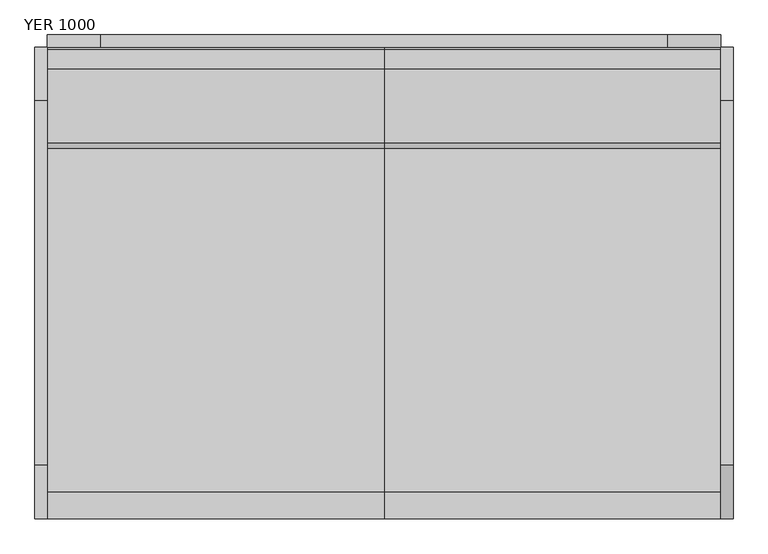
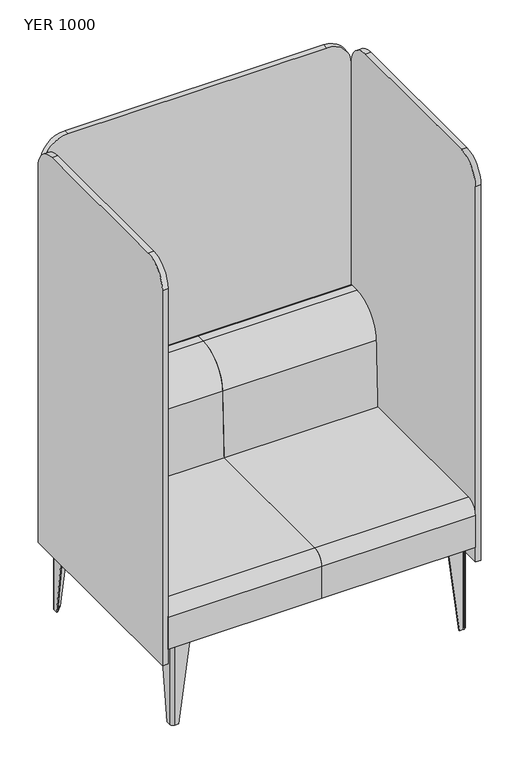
"""IFC4 building model written with IfcOpenShell, lengths in millimetres: furniture geometry, Mobiliário_Mobiliário de Escritório_LinhaYoung_Enclosure (Aço) - YER_Marelli : YER 1000."""

from ifc_helpers import new_model, si_unit, point, frame, frame_2d, origin, origin_with_axes, place, context, project, spatial, polyline, circle_curve, trimmed, segment, composite_curve, outline, extrude, source, transform, mapped, element, save
from ifc_brep_helpers import plane_surface, cylinder_surface, revolved_surface, advanced_brep


def yer_1000_36a1c1a7(model_context):
    return source(origin(), model_context, "Body", "SolidModel", [
        advanced_brep(
        [(20.0, 75.0, 280.0), (20.0, 25.0, 280.0), (30.0, 15.0, 280.0), (80.0, 15.0, 280.0), (80.0, 18.0, 280.0), (30.0, 18.0, 280.0), (23.0, 25.0, 280.0), (23.0, 75.0, 280.0), (20.0, 39.0, 0.0), (23.0, 39.0, 0.0), (23.0, 25.0, 0.0), (30.0, 18.0, 0.0), (44.0, 18.0, 0.0), (44.0, 15.0, 0.0), (30.0, 15.0, 0.0), (20.0, 25.0, 0.0)],
        [
            (0, 1),
            (1, 2, circle_curve(frame((30.0, 25.0, 280.0), z_axis=(0.0, 0.0, 1.0), x_axis=(0.0, -1.0, 0.0)), 10.0)),
            (2, 3),
            (3, 4),
            (4, 5),
            (5, 6, circle_curve(frame((30.0, 25.0, 280.0), z_axis=(0.0, 0.0, -1.0), x_axis=(-1.0, 0.0, 0.0)), 7.0)),
            (6, 7),
            (7, 0),
            (8, 9),
            (9, 10),
            (10, 11, circle_curve(frame((30.0, 25.0, 0.0), z_axis=(0.0, 0.0, 1.0), x_axis=(-1.0, 0.0, 0.0)), 7.0)),
            (11, 12),
            (12, 13),
            (13, 14),
            (14, 15, circle_curve(frame((30.0, 25.0, 0.0), z_axis=(0.0, 0.0, -1.0), x_axis=(0.0, -1.0, 0.0)), 10.0)),
            (15, 8),
            (15, 1),
            (0, 8),
            (14, 2),
            (13, 3),
            (12, 4),
            (11, 5),
            (10, 6),
            (9, 7),
        ],
        [
            plane_surface(frame((38.25, 33.25, 280.0), z_axis=(0.0, 0.0, 1.0), x_axis=(0.0, -1.0, 0.0))),
            plane_surface(frame((29.25, 24.25, 0.0), z_axis=(0.0, 0.0, -1.0), x_axis=(0.0, -1.0, 0.0))),
            plane_surface(frame((20.0, 32.0, 0.0), z_axis=(-1.0, 0.0, 0.0), x_axis=(0.0, -1.0, 0.0))),
            cylinder_surface(frame((30.0, 25.0, 0.0), z_axis=(0.0, 0.0, 1.0), x_axis=(0.0, -1.0, 0.0)), 10.0),
            plane_surface(frame((37.0, 15.0, 0.0), z_axis=(0.0, -1.0, 0.0), x_axis=(1.0, 0.0, 0.0))),
            plane_surface(frame((44.0, 16.5, 0.0), z_axis=(0.9918357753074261, 0.0, -0.12752174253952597), x_axis=(0.0, 1.0, 0.0))),
            plane_surface(frame((37.0, 18.0, 0.0), z_axis=(0.0, 1.0, 0.0), x_axis=(-1.0, 0.0, 0.0))),
            revolved_surface(polyline([(23.0, 25.0, 280.0), (23.0, 25.0, 0.0)]), (30.0, 25.0, 0.0), (0.0, 0.0, 1.0)),
            plane_surface(frame((23.0, 32.0, 0.0), z_axis=(1.0, 0.0, 0.0), x_axis=(0.0, 1.0, 0.0))),
            plane_surface(frame((21.5, 39.0, 0.0), z_axis=(0.0, 0.9918357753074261, -0.12752174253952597), x_axis=(-1.0, 0.0, 0.0))),
        ],
        [
            (0, [[1, 2, 3, 4, 5, 6, 7, 8]]),
            (1, [[9, 10, 11, 12, 13, 14, 15, 16]]),
            (2, [[-16, 17, -1, 18]]),
            (3, [[-15, 19, -2, -17]]),
            (4, [[-14, 20, -3, -19]]),
            (5, [[-13, 21, -4, -20]]),
            (6, [[-12, 22, -5, -21]]),
            (7, [[-11, 23, -6, -22]]),
            (8, [[-10, 24, -7, -23]]),
            (9, [[-9, -18, -8, -24]]),
        ],
    ),
        advanced_brep(
        [(980.0, 75.0, 280.0), (977.0, 75.0, 280.0), (977.0, 25.0, 280.0), (970.0, 18.0, 280.0), (920.0, 18.0, 280.0), (920.0, 15.0, 280.0), (970.0, 15.0, 280.0), (980.0, 25.0, 280.0), (980.0, 39.0, 0.0), (980.0, 25.0, 0.0), (970.0, 15.0, 0.0), (956.0, 15.0, 0.0), (956.0, 18.0, 0.0), (970.0, 18.0, 0.0), (977.0, 25.0, 0.0), (977.0, 39.0, 0.0)],
        [
            (0, 1),
            (1, 2),
            (2, 3, circle_curve(frame((970.0, 25.0, 280.0), z_axis=(0.0, 0.0, -1.0), x_axis=(0.0, -1.0, 0.0)), 7.0)),
            (3, 4),
            (4, 5),
            (5, 6),
            (6, 7, circle_curve(frame((970.0, 25.0, 280.0), z_axis=(0.0, 0.0, 1.0), x_axis=(1.0, 0.0, 0.0)), 10.0)),
            (7, 0),
            (8, 9),
            (9, 10, circle_curve(frame((970.0, 25.0, 0.0), z_axis=(0.0, 0.0, -1.0), x_axis=(1.0, 0.0, 0.0)), 10.0)),
            (10, 11),
            (11, 12),
            (12, 13),
            (13, 14, circle_curve(frame((970.0, 25.0, 0.0), z_axis=(0.0, 0.0, 1.0), x_axis=(0.0, -1.0, 0.0)), 7.0)),
            (14, 15),
            (15, 8),
            (8, 0),
            (7, 9),
            (6, 10),
            (5, 11),
            (4, 12),
            (3, 13),
            (2, 14),
            (1, 15),
        ],
        [
            plane_surface(frame((961.75, 33.25, 280.0), z_axis=(0.0, 0.0, 1.0), x_axis=(-1.0, 0.0, 0.0))),
            plane_surface(frame((970.75, 24.25, 0.0), z_axis=(0.0, 0.0, -1.0), x_axis=(-1.0, 0.0, 0.0))),
            plane_surface(frame((980.0, 32.0, 0.0), z_axis=(1.0, 0.0, 0.0), x_axis=(0.0, 1.0, 0.0))),
            cylinder_surface(frame((970.0, 25.0, 0.0), z_axis=(0.0, 0.0, 1.0), x_axis=(1.0, 0.0, 0.0)), 10.0),
            plane_surface(frame((963.0, 15.0, 0.0), z_axis=(0.0, -1.0, 0.0), x_axis=(1.0, 0.0, 0.0))),
            plane_surface(frame((956.0, 16.5, 0.0), z_axis=(-0.9918357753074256, 0.0, -0.12752174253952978), x_axis=(0.0, -1.0, 0.0))),
            plane_surface(frame((963.0, 18.0, 0.0), z_axis=(0.0, 1.0, 0.0), x_axis=(-1.0, 0.0, 0.0))),
            revolved_surface(polyline([(970.0, 18.0, 280.0), (970.0, 18.0, 0.0)]), (970.0, 25.0, 0.0), (0.0, 0.0, 1.0)),
            plane_surface(frame((977.0, 32.0, 0.0), z_axis=(-1.0, 0.0, 0.0), x_axis=(0.0, -1.0, 0.0))),
            plane_surface(frame((978.5, 39.0, 0.0), z_axis=(0.0, 0.9918357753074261, -0.127521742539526), x_axis=(-1.0, 0.0, 0.0))),
        ],
        [
            (0, [[1, 2, 3, 4, 5, 6, 7, 8]]),
            (1, [[9, 10, 11, 12, 13, 14, 15, 16]]),
            (2, [[-9, 17, -8, 18]]),
            (3, [[-10, -18, -7, 19]]),
            (4, [[-11, -19, -6, 20]]),
            (5, [[-12, -20, -5, 21]]),
            (6, [[-13, -21, -4, 22]]),
            (7, [[-14, -22, -3, 23]]),
            (8, [[-15, -23, -2, 24]]),
            (9, [[-16, -24, -1, -17]]),
        ],
    ),
        advanced_brep(
        [(20.0, 625.0, 280.0), (23.0, 625.0, 280.0), (23.0, 675.0, 280.0), (30.0, 682.0, 280.0), (80.0, 682.0, 280.0), (80.0, 685.0, 280.0), (30.0, 685.0, 280.0), (20.0, 675.0, 280.0), (20.0, 661.0, 0.0), (20.0, 675.0, 0.0), (30.0, 685.0, 0.0), (44.0, 685.0, 0.0), (44.0, 682.0, 0.0), (30.0, 682.0, 0.0), (23.0, 675.0, 0.0), (23.0, 661.0, 0.0)],
        [
            (0, 1),
            (1, 2),
            (2, 3, circle_curve(frame((30.0, 675.0, 280.0), z_axis=(0.0, 0.0, -1.0), x_axis=(0.0, 1.0, 0.0)), 7.0)),
            (3, 4),
            (4, 5),
            (5, 6),
            (6, 7, circle_curve(frame((30.0, 675.0, 280.0), z_axis=(0.0, 0.0, 1.0), x_axis=(-1.0, 0.0, 0.0)), 10.0)),
            (7, 0),
            (8, 9),
            (9, 10, circle_curve(frame((30.0, 675.0, 0.0), z_axis=(0.0, 0.0, -1.0), x_axis=(-1.0, 0.0, 0.0)), 10.0)),
            (10, 11),
            (11, 12),
            (12, 13),
            (13, 14, circle_curve(frame((30.0, 675.0, 0.0), z_axis=(0.0, 0.0, 1.0), x_axis=(0.0, 1.0, 0.0)), 7.0)),
            (14, 15),
            (15, 8),
            (8, 0),
            (7, 9),
            (6, 10),
            (5, 11),
            (4, 12),
            (3, 13),
            (2, 14),
            (1, 15),
        ],
        [
            plane_surface(frame((38.25, 666.75, 280.0), z_axis=(0.0, 0.0, 1.0), x_axis=(1.0, 0.0, 0.0))),
            plane_surface(frame((29.25, 675.75, 0.0), z_axis=(0.0, 0.0, -1.0), x_axis=(1.0, 0.0, 0.0))),
            plane_surface(frame((20.0, 668.0, 0.0), z_axis=(-1.0, 0.0, 0.0), x_axis=(0.0, -1.0, 0.0))),
            cylinder_surface(frame((30.0, 675.0, 0.0), z_axis=(0.0, 0.0, 1.0), x_axis=(-1.0, 0.0, 0.0)), 10.0),
            plane_surface(frame((37.0, 685.0, 0.0), z_axis=(0.0, 1.0, 0.0), x_axis=(-1.0, 0.0, 0.0))),
            plane_surface(frame((44.0, 683.5, 0.0), z_axis=(0.9918357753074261, 0.0, -0.12752174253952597), x_axis=(0.0, 1.0, 0.0))),
            plane_surface(frame((37.0, 682.0, 0.0), z_axis=(0.0, -1.0, 0.0), x_axis=(1.0, 0.0, 0.0))),
            revolved_surface(polyline([(30.0, 682.0, 280.0), (30.0, 682.0, 0.0)]), (30.0, 675.0, 0.0), (0.0, 0.0, 1.0)),
            plane_surface(frame((23.0, 668.0, 0.0), z_axis=(1.0, 0.0, 0.0), x_axis=(0.0, 1.0, 0.0))),
            plane_surface(frame((21.5, 661.0, 0.0), z_axis=(0.0, -0.9918357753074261, -0.127521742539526), x_axis=(1.0, 0.0, 0.0))),
        ],
        [
            (0, [[1, 2, 3, 4, 5, 6, 7, 8]]),
            (1, [[9, 10, 11, 12, 13, 14, 15, 16]]),
            (2, [[-9, 17, -8, 18]]),
            (3, [[-10, -18, -7, 19]]),
            (4, [[-11, -19, -6, 20]]),
            (5, [[-12, -20, -5, 21]]),
            (6, [[-13, -21, -4, 22]]),
            (7, [[-14, -22, -3, 23]]),
            (8, [[-15, -23, -2, 24]]),
            (9, [[-16, -24, -1, -17]]),
        ],
    ),
        advanced_brep(
        [(980.0, 625.0, 280.0), (980.0, 675.0, 280.0), (970.0, 685.0, 280.0), (920.0, 685.0, 280.0), (920.0, 682.0, 280.0), (970.0, 682.0, 280.0), (977.0, 675.0, 280.0), (977.0, 625.0, 280.0), (980.0, 661.0, 0.0), (977.0, 661.0, 0.0), (977.0, 675.0, 0.0), (970.0, 682.0, 0.0), (956.0, 682.0, 0.0), (956.0, 685.0, 0.0), (970.0, 685.0, 0.0), (980.0, 675.0, 0.0)],
        [
            (0, 1),
            (1, 2, circle_curve(frame((970.0, 675.0, 280.0), z_axis=(0.0, 0.0, 1.0), x_axis=(0.0, 1.0, 0.0)), 10.0)),
            (2, 3),
            (3, 4),
            (4, 5),
            (5, 6, circle_curve(frame((970.0, 675.0, 280.0), z_axis=(0.0, 0.0, -1.0), x_axis=(1.0, 0.0, 0.0)), 7.0)),
            (6, 7),
            (7, 0),
            (8, 9),
            (9, 10),
            (10, 11, circle_curve(frame((970.0, 675.0, 0.0), z_axis=(0.0, 0.0, 1.0), x_axis=(1.0, 0.0, 0.0)), 7.0)),
            (11, 12),
            (12, 13),
            (13, 14),
            (14, 15, circle_curve(frame((970.0, 675.0, 0.0), z_axis=(0.0, 0.0, -1.0), x_axis=(0.0, 1.0, 0.0)), 10.0)),
            (15, 8),
            (15, 1),
            (0, 8),
            (14, 2),
            (13, 3),
            (12, 4),
            (11, 5),
            (10, 6),
            (9, 7),
        ],
        [
            plane_surface(frame((961.75, 666.75, 280.0), z_axis=(0.0, 0.0, 1.0), x_axis=(0.0, 1.0, 0.0))),
            plane_surface(frame((970.75, 675.75, 0.0), z_axis=(0.0, 0.0, -1.0), x_axis=(0.0, 1.0, 0.0))),
            plane_surface(frame((980.0, 668.0, 0.0), z_axis=(1.0, 0.0, 0.0), x_axis=(0.0, 1.0, 0.0))),
            cylinder_surface(frame((970.0, 675.0, 0.0), z_axis=(0.0, 0.0, 1.0), x_axis=(0.0, 1.0, 0.0)), 10.0),
            plane_surface(frame((963.0, 685.0, 0.0), z_axis=(0.0, 1.0, 0.0), x_axis=(-1.0, 0.0, 0.0))),
            plane_surface(frame((956.0, 683.5, 0.0), z_axis=(-0.9918357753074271, 0.0, -0.12752174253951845), x_axis=(0.0, -1.0, 0.0))),
            plane_surface(frame((963.0, 682.0, 0.0), z_axis=(0.0, -1.0, 0.0), x_axis=(1.0, 0.0, 0.0))),
            revolved_surface(polyline([(977.0, 675.0, 280.0), (977.0, 675.0, 0.0)]), (970.0, 675.0, 0.0), (0.0, 0.0, 1.0)),
            plane_surface(frame((977.0, 668.0, 0.0), z_axis=(-1.0, 0.0, 0.0), x_axis=(0.0, -1.0, 0.0))),
            plane_surface(frame((978.5, 661.0, 0.0), z_axis=(0.0, -0.9918357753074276, -0.12752174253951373), x_axis=(1.0, 0.0, 0.0))),
        ],
        [
            (0, [[1, 2, 3, 4, 5, 6, 7, 8]]),
            (1, [[9, 10, 11, 12, 13, 14, 15, 16]]),
            (2, [[-16, 17, -1, 18]]),
            (3, [[-15, 19, -2, -17]]),
            (4, [[-14, 20, -3, -19]]),
            (5, [[-13, 21, -4, -20]]),
            (6, [[-12, 22, -5, -21]]),
            (7, [[-11, 23, -6, -22]]),
            (8, [[-10, 24, -7, -23]]),
            (9, [[-9, -18, -8, -24]]),
        ],
    ),
        extrude(outline(composite_curve([segment(polyline([(23.0, 39.0), (44.0, 18.0), (30.0, 18.0)]), True, "CONTINUOUS"), segment(trimmed(circle_curve(frame_2d((30.0, 25.0)), 7.0), [point((30.0, 18.0))], [point((23.0, 25.0))], False, "CARTESIAN"), True, "CONTINUOUS"), segment(polyline([(23.0, 25.0), (23.0, 39.0)]), True, "CONTINUOUS")], self_intersect=False)), origin_with_axes(), (0.0, 0.0, 1.0), 1.0),
        extrude(outline(composite_curve([segment(polyline([(23.0, 661.0), (23.0, 675.0)]), True, "CONTINUOUS"), segment(trimmed(circle_curve(frame_2d((30.0, 675.0)), 7.0), [point((23.0, 675.0))], [point((30.0, 682.0))], False, "CARTESIAN"), True, "CONTINUOUS"), segment(polyline([(30.0, 682.0), (44.0, 682.0), (23.0, 661.0)]), True, "CONTINUOUS")], self_intersect=False)), origin_with_axes(), (0.0, 0.0, 1.0), 1.0),
        extrude(outline(composite_curve([segment(polyline([(977.0, 39.0), (977.0, 25.0)]), True, "CONTINUOUS"), segment(trimmed(circle_curve(frame_2d((970.0, 25.0)), 7.0), [point((977.0, 25.0))], [point((970.0, 18.0))], False, "CARTESIAN"), True, "CONTINUOUS"), segment(polyline([(970.0, 18.0), (956.0, 18.0), (977.0, 39.0)]), True, "CONTINUOUS")], self_intersect=False)), origin_with_axes(), (0.0, 0.0, 1.0), 1.0),
        extrude(outline(composite_curve([segment(polyline([(977.0, 661.0), (956.0, 682.0), (970.0, 682.0)]), True, "CONTINUOUS"), segment(trimmed(circle_curve(frame_2d((970.0, 675.0)), 7.0), [point((970.0, 682.0))], [point((977.0, 675.0))], False, "CARTESIAN"), True, "CONTINUOUS"), segment(polyline([(977.0, 675.0), (977.0, 661.0)]), True, "CONTINUOUS")], self_intersect=False)), origin_with_axes(), (0.0, 0.0, 1.0), 1.0),
        extrude(outline(composite_curve([segment(trimmed(circle_curve(frame_2d((30.0, 25.0)), 7.0), [point((30.0, 18.0))], [point((23.0, 25.0))], False, "CARTESIAN"), True, "CONTINUOUS"), segment(polyline([(23.0, 25.0), (23.0, 93.0)]), True, "CONTINUOUS"), segment(trimmed(circle_curve(frame_2d((28.0, 93.0)), 5.0), [point((23.0, 93.0))], [point((28.0, 98.0))], False, "CARTESIAN"), True, "CONTINUOUS"), segment(polyline([(28.0, 98.0), (51.9545624, 98.0)]), True, "CONTINUOUS"), segment(trimmed(circle_curve(frame_2d((52.6241051, 89.931755)), 8.0959783), [point((51.9545624, 98.0))], [point((58.520382, 95.479618))], False, "CARTESIAN"), True, "CONTINUOUS"), segment(polyline([(58.520382, 95.479618), (100.479618, 53.520382)]), True, "CONTINUOUS"), segment(trimmed(circle_curve(frame_2d((94.931755, 47.6241051)), 8.0959783), [point((100.479618, 53.520382))], [point((103.0, 46.9545624))], False, "CARTESIAN"), True, "CONTINUOUS"), segment(polyline([(103.0, 46.9545624), (103.0, 23.0)]), True, "CONTINUOUS"), segment(trimmed(circle_curve(frame_2d((98.0, 23.0)), 5.0), [point((103.0, 23.0))], [point((98.0, 18.0))], False, "CARTESIAN"), True, "CONTINUOUS"), segment(polyline([(98.0, 18.0), (30.0, 18.0)]), True, "CONTINUOUS")], self_intersect=False)), frame((0.0, 0.0, 279.0), z_axis=(0.0, 0.0, 1.0), x_axis=(1.0, 0.0, 0.0)), (0.0, 0.0, 1.0), 1.0),
        extrude(outline(composite_curve([segment(polyline([(30.0, 682.0), (98.0, 682.0)]), True, "CONTINUOUS"), segment(trimmed(circle_curve(frame_2d((98.0, 677.0)), 5.0), [point((98.0, 682.0))], [point((103.0, 677.0))], False, "CARTESIAN"), True, "CONTINUOUS"), segment(polyline([(103.0, 677.0), (103.0, 653.0454376)]), True, "CONTINUOUS"), segment(trimmed(circle_curve(frame_2d((94.931755, 652.3758949)), 8.0959783), [point((103.0, 653.0454376))], [point((100.479618, 646.479618))], False, "CARTESIAN"), True, "CONTINUOUS"), segment(polyline([(100.479618, 646.479618), (58.520382, 604.520382)]), True, "CONTINUOUS"), segment(trimmed(circle_curve(frame_2d((52.6241051, 610.068245)), 8.0959783), [point((58.520382, 604.520382))], [point((51.9545624, 602.0))], False, "CARTESIAN"), True, "CONTINUOUS"), segment(polyline([(51.9545624, 602.0), (28.0, 602.0)]), True, "CONTINUOUS"), segment(trimmed(circle_curve(frame_2d((28.0, 607.0)), 5.0), [point((28.0, 602.0))], [point((23.0, 607.0))], False, "CARTESIAN"), True, "CONTINUOUS"), segment(polyline([(23.0, 607.0), (23.0, 675.0)]), True, "CONTINUOUS"), segment(trimmed(circle_curve(frame_2d((30.0, 675.0)), 7.0), [point((23.0, 675.0))], [point((30.0, 682.0))], False, "CARTESIAN"), True, "CONTINUOUS")], self_intersect=False)), frame((0.0, 0.0, 279.0), z_axis=(0.0, 0.0, 1.0), x_axis=(1.0, 0.0, 0.0)), (0.0, 0.0, 1.0), 1.0),
        extrude(outline(composite_curve([segment(polyline([(970.0, 18.0), (902.0, 18.0)]), True, "CONTINUOUS"), segment(trimmed(circle_curve(frame_2d((902.0, 23.0)), 5.0), [point((902.0, 18.0))], [point((897.0, 23.0))], False, "CARTESIAN"), True, "CONTINUOUS"), segment(polyline([(897.0, 23.0), (897.0, 46.9545624)]), True, "CONTINUOUS"), segment(trimmed(circle_curve(frame_2d((905.068245, 47.6241051)), 8.0959783), [point((897.0, 46.9545624))], [point((899.520382, 53.520382))], False, "CARTESIAN"), True, "CONTINUOUS"), segment(polyline([(899.520382, 53.520382), (941.479618, 95.479618)]), True, "CONTINUOUS"), segment(trimmed(circle_curve(frame_2d((947.3758949, 89.931755)), 8.0959783), [point((941.479618, 95.479618))], [point((948.0454376, 98.0))], False, "CARTESIAN"), True, "CONTINUOUS"), segment(polyline([(948.0454376, 98.0), (972.0, 98.0)]), True, "CONTINUOUS"), segment(trimmed(circle_curve(frame_2d((972.0, 93.0)), 5.0), [point((972.0, 98.0))], [point((977.0, 93.0))], False, "CARTESIAN"), True, "CONTINUOUS"), segment(polyline([(977.0, 93.0), (977.0, 25.0)]), True, "CONTINUOUS"), segment(trimmed(circle_curve(frame_2d((970.0, 25.0)), 7.0), [point((977.0, 25.0))], [point((970.0, 18.0))], False, "CARTESIAN"), True, "CONTINUOUS")], self_intersect=False)), frame((0.0, 0.0, 279.0), z_axis=(0.0, 0.0, 1.0), x_axis=(1.0, 0.0, 0.0)), (0.0, 0.0, 1.0), 1.0),
        extrude(outline(composite_curve([segment(trimmed(circle_curve(frame_2d((970.0, 675.0)), 7.0), [point((970.0, 682.0))], [point((977.0, 675.0))], False, "CARTESIAN"), True, "CONTINUOUS"), segment(polyline([(977.0, 675.0), (977.0, 607.0)]), True, "CONTINUOUS"), segment(trimmed(circle_curve(frame_2d((972.0, 607.0)), 5.0), [point((977.0, 607.0))], [point((972.0, 602.0))], False, "CARTESIAN"), True, "CONTINUOUS"), segment(polyline([(972.0, 602.0), (948.0454376, 602.0)]), True, "CONTINUOUS"), segment(trimmed(circle_curve(frame_2d((947.3758949, 610.068245)), 8.0959783), [point((948.0454376, 602.0))], [point((941.479618, 604.520382))], False, "CARTESIAN"), True, "CONTINUOUS"), segment(polyline([(941.479618, 604.520382), (899.520382, 646.479618)]), True, "CONTINUOUS"), segment(trimmed(circle_curve(frame_2d((905.068245, 652.3758949)), 8.0959783), [point((899.520382, 646.479618))], [point((897.0, 653.0454376))], False, "CARTESIAN"), True, "CONTINUOUS"), segment(polyline([(897.0, 653.0454376), (897.0, 677.0)]), True, "CONTINUOUS"), segment(trimmed(circle_curve(frame_2d((902.0, 677.0)), 5.0), [point((897.0, 677.0))], [point((902.0, 682.0))], False, "CARTESIAN"), True, "CONTINUOUS"), segment(polyline([(902.0, 682.0), (970.0, 682.0)]), True, "CONTINUOUS")], self_intersect=False)), frame((0.0, 0.0, 279.0), z_axis=(0.0, 0.0, 1.0), x_axis=(1.0, 0.0, 0.0)), (0.0, 0.0, 1.0), 1.0),
        extrude(outline(composite_curve([segment(polyline([(550.0, 430.0), (550.0, 280.0), (0.0, 280.0), (0.0, 390.0)]), True, "CONTINUOUS"), segment(trimmed(circle_curve(frame_2d((40.0, 390.0)), 40.0), [point((0.0, 390.0))], [point((40.0, 430.0))], False, "CARTESIAN"), True, "CONTINUOUS"), segment(polyline([(40.0, 430.0), (550.0, 430.0)]), True, "CONTINUOUS")], self_intersect=False)), frame((0.0, 0.0, 0.0), z_axis=(1.0, 0.0, 0.0), x_axis=(0.0, 1.0, 0.0)), (0.0, 0.0, 1.0), 500.0),
        extrude(outline(composite_curve([segment(polyline([(550.0, 430.0), (550.0, 280.0), (0.0, 280.0), (0.0, 390.0)]), True, "CONTINUOUS"), segment(trimmed(circle_curve(frame_2d((40.0, 390.0)), 40.0), [point((0.0, 390.0))], [point((40.0, 430.0))], False, "CARTESIAN"), True, "CONTINUOUS"), segment(polyline([(40.0, 430.0), (550.0, 430.0)]), True, "CONTINUOUS")], self_intersect=False)), frame((500.0, 0.0, 0.0), z_axis=(1.0, 0.0, 0.0), x_axis=(0.0, 1.0, 0.0)), (0.0, 0.0, 1.0), 500.0),
        extrude(outline(composite_curve([segment(polyline([(700.0, 756.802426), (700.0, 280.0), (550.0, 280.0), (550.0, 430.0), (558.2568376, 654.223651)]), True, "CONTINUOUS"), segment(trimmed(circle_curve(frame_2d((668.0, 650.1824561)), 109.8175439), [point((558.2568376, 654.223651))], [point((668.0, 760.0))], False, "CARTESIAN"), True, "CONTINUOUS"), segment(polyline([(668.0, 760.0), (696.802426, 760.0)]), True, "CONTINUOUS"), segment(trimmed(circle_curve(frame_2d((696.802426, 756.802426)), 3.197574), [point((696.802426, 760.0))], [point((700.0, 756.802426))], False, "CARTESIAN"), True, "CONTINUOUS")], self_intersect=False)), frame((0.0, 0.0, 0.0), z_axis=(1.0, 0.0, 0.0), x_axis=(0.0, 1.0, 0.0)), (0.0, 0.0, 1.0), 500.0),
        extrude(outline(composite_curve([segment(polyline([(700.0, 756.802426), (700.0, 280.0), (550.0, 280.0), (550.0, 430.0), (558.2568376, 654.223651)]), True, "CONTINUOUS"), segment(trimmed(circle_curve(frame_2d((668.0, 650.1824561)), 109.8175439), [point((558.2568376, 654.223651))], [point((668.0, 760.0))], False, "CARTESIAN"), True, "CONTINUOUS"), segment(polyline([(668.0, 760.0), (696.802426, 760.0)]), True, "CONTINUOUS"), segment(trimmed(circle_curve(frame_2d((696.802426, 756.802426)), 3.197574), [point((696.802426, 760.0))], [point((700.0, 756.802426))], False, "CARTESIAN"), True, "CONTINUOUS")], self_intersect=False)), frame((500.0, 0.0, 0.0), z_axis=(1.0, 0.0, 0.0), x_axis=(0.0, 1.0, 0.0)), (0.0, 0.0, 1.0), 500.0),
        extrude(outline(composite_curve([segment(trimmed(circle_curve(frame_2d((620.0, 1520.0)), 80.0), [point((620.0, 1600.0))], [point((700.0, 1520.0))], False, "CARTESIAN"), True, "CONTINUOUS"), segment(polyline([(700.0, 1520.0), (700.0, 230.0), (0.0, 230.0), (0.0, 1520.0)]), True, "CONTINUOUS"), segment(trimmed(circle_curve(frame_2d((80.0, 1520.0)), 80.0), [point((0.0, 1520.0))], [point((80.0, 1600.0))], False, "CARTESIAN"), True, "CONTINUOUS"), segment(polyline([(80.0, 1600.0), (620.0, 1600.0)]), True, "CONTINUOUS")], self_intersect=False)), frame((1000.0, 0.0, 0.0), z_axis=(1.0, 0.0, 0.0), x_axis=(0.0, 1.0, 0.0)), (0.0, 0.0, 1.0), 18.0),
        extrude(outline(composite_curve([segment(polyline([(1600.0, 920.0), (1600.0, 80.0)]), True, "CONTINUOUS"), segment(trimmed(circle_curve(frame_2d((1520.0, 80.0)), 80.0), [point((1600.0, 80.0))], [point((1520.0, 0.0))], False, "CARTESIAN"), True, "CONTINUOUS"), segment(polyline([(1520.0, 0.0), (230.0, 0.0), (230.0, 1000.0), (1520.0, 1000.0)]), True, "CONTINUOUS"), segment(trimmed(circle_curve(frame_2d((1520.0, 920.0)), 80.0), [point((1520.0, 1000.0))], [point((1600.0, 920.0))], False, "CARTESIAN"), True, "CONTINUOUS")], self_intersect=False)), frame((0.0, 700.0, 0.0), z_axis=(0.0, 1.0, 0.0), x_axis=(0.0, 0.0, 1.0)), (0.0, 0.0, 1.0), 18.0),
        extrude(outline(composite_curve([segment(trimmed(circle_curve(frame_2d((620.0, 1520.0)), 80.0), [point((620.0, 1600.0))], [point((700.0, 1520.0))], False, "CARTESIAN"), True, "CONTINUOUS"), segment(polyline([(700.0, 1520.0), (700.0, 230.0), (0.0, 230.0), (0.0, 1520.0)]), True, "CONTINUOUS"), segment(trimmed(circle_curve(frame_2d((80.0, 1520.0)), 80.0), [point((0.0, 1520.0))], [point((80.0, 1600.0))], False, "CARTESIAN"), True, "CONTINUOUS"), segment(polyline([(80.0, 1600.0), (620.0, 1600.0)]), True, "CONTINUOUS")], self_intersect=False)), frame((-18.0, 0.0, 0.0), z_axis=(1.0, 0.0, 0.0), x_axis=(0.0, 1.0, 0.0)), (0.0, 0.0, 1.0), 18.0),
    ])


if __name__ == "__main__":
    model = new_model("IFC4")
    model_context = context("Model", 3, world=origin())
    ifc_project = project(units=[si_unit("LENGTHUNIT", "METRE", prefix="MILLI")], contexts=[model_context])
    site = spatial("IfcSite", under=ifc_project)
    building = spatial("IfcBuilding", under=site)
    placement = place(None, origin())
    yer_1000_shape = yer_1000_36a1c1a7(model_context)
    element("IfcFurniture", 1, ObjectType="Mobiliário_Mobiliário de Escritório_LinhaYoung_Enclosure (Aço) - YER_Marelli : YER 1000", at=placement, inside=building, context=model_context, shape_type="MappedRepresentation", body=[
        mapped(yer_1000_shape, transform((0.0, 0.0, 0.0), x_axis=(1.0, 0.0, 0.0), y_axis=(0.0, 1.0, 0.0), z_axis=(0.0, 0.0, 1.0))),
    ])
    save(model, "model.ifc")
